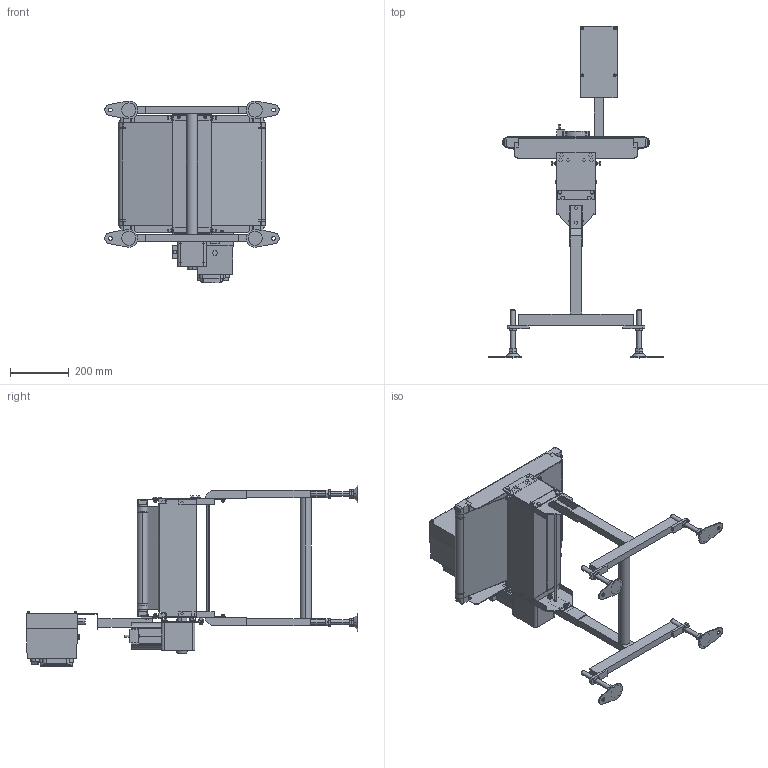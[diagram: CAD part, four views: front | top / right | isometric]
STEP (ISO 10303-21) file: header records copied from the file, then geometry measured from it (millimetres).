
FILE_DESCRIPTION (( 'STEP AP214' ), '1' );
FILE_NAME ('FSDHS-350-500-R.STEP', '2023-04-20T09:15:06', ( '' ), ( '' ), 'SwSTEP 2.0', 'SolidWorks 2017', '' );
FILE_SCHEMA (( 'AUTOMOTIVE_DESIGN' ));
Length unit declared in the file: millimetre
Products named in the file (1): FSDHS-350-500-R
Bounding box: 594 x 1131 x 619.99 mm (x, y, z)
Volume: 17030795.7 mm3; surface area: 3050843.5 mm2
Topology: 46 solids, 48 shells, 1758 faces, 4365 edges, 2866 vertices
Faces by surface type: plane 1175, cylinder 540, cone 29, bspline 14
Entity records: 73980 total; most frequent: CARTESIAN_POINT 11192, DIRECTION 8967, ORIENTED_EDGE 8726, EDGE_CURVE 4363, VECTOR 3103, LINE 3103, AXIS2_PLACEMENT_3D 2932, VERTEX_POINT 2866
